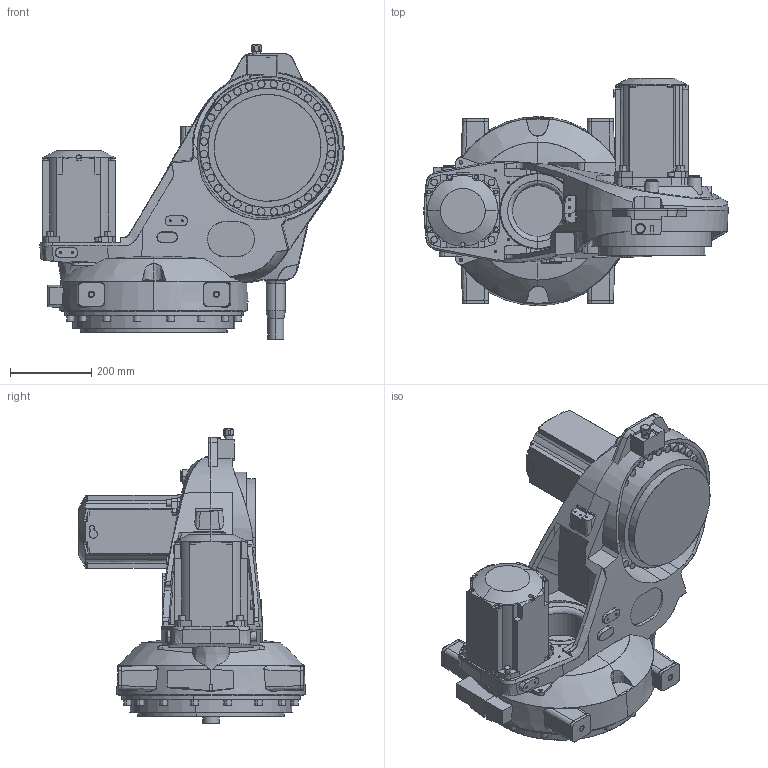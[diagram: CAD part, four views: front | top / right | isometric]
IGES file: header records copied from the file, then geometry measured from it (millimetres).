
Start section: SolidWorks IGES file using analytic representation for surfaces
Global section: file name: C:\Users\SEALDUN\OneDrive - ABB\Documents\R&D Robotics\Work Items\WI 632927\IGES\IRB5710-LID-SW_70kg-270_OC_02_IGES_J\IRB5710-LID_70kg-270_OmniCore_rev00_LINK01_CAD.igs; native system: SolidWorks 2024; preprocessor: SolidWorks 2024; author: SEALDUN; date: 250707.155242; units: millimetre
Bounding box: 749.5 x 559.45 x 724.4 mm (x, y, z)
Surface area: 2045067.1 mm2 (no closed solid volume)
Topology: 0 solids, 0 shells, 1528 faces, 25356 edges, 25294 vertices
Faces by surface type: bspline 811, revolution 717
